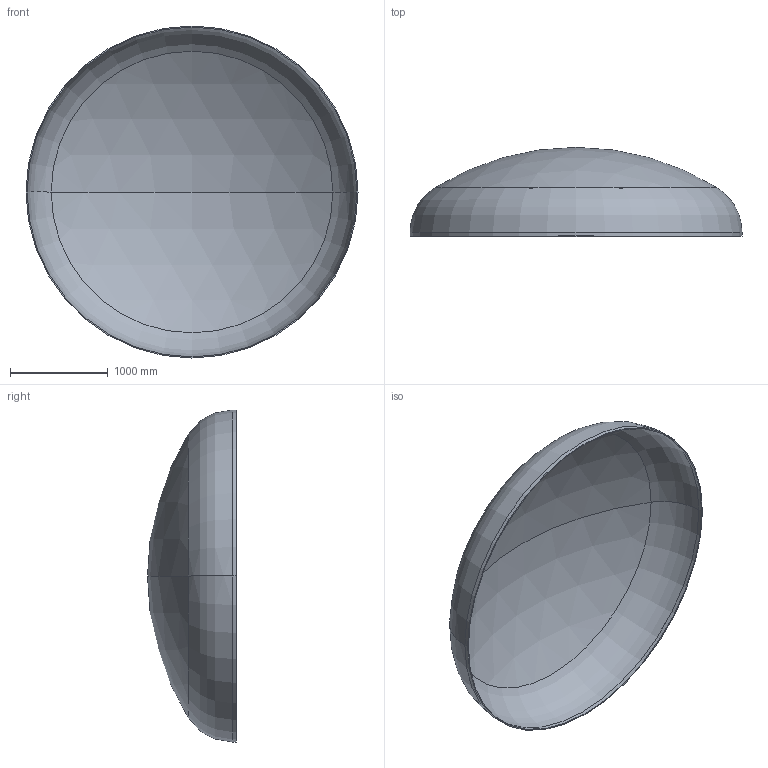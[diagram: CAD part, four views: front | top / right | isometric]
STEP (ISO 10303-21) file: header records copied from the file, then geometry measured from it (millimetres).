
FILE_DESCRIPTION (( 'STEP AP203' ), '1' );
FILE_NAME ('DIN 28013 Korbbogenform_-_Boden DIN 28013 - 3400 x 40 - I - s=11.step', '2016-07-01T19:10:27', ( '' ), ( '' ), 'SwSTEP 2.0', 'SolidWorks 2013', '' );
FILE_SCHEMA (( 'CONFIG_CONTROL_DESIGN' ));
Length unit declared in the file: millimetre
Products named in the file (1): DIN 28013 Korbbogenform_-_Boden DIN 28013 - 3400 x 40 - I - s=11
Bounding box: 3400 x 910.05 x 3400 mm (x, y, z)
Volume: 142495058.4 mm3; surface area: 26025550.9 mm2
Topology: 1 solids, 1 shells, 13 faces, 24 edges, 14 vertices
Faces by surface type: torus 4, cylinder 4, sphere 4, plane 1
Entity records: 407 total; most frequent: DIRECTION 72, CARTESIAN_POINT 52, ORIENTED_EDGE 48, AXIS2_PLACEMENT_3D 34, EDGE_CURVE 24, CIRCLE 20, EDGE_LOOP 14, VERTEX_POINT 14
